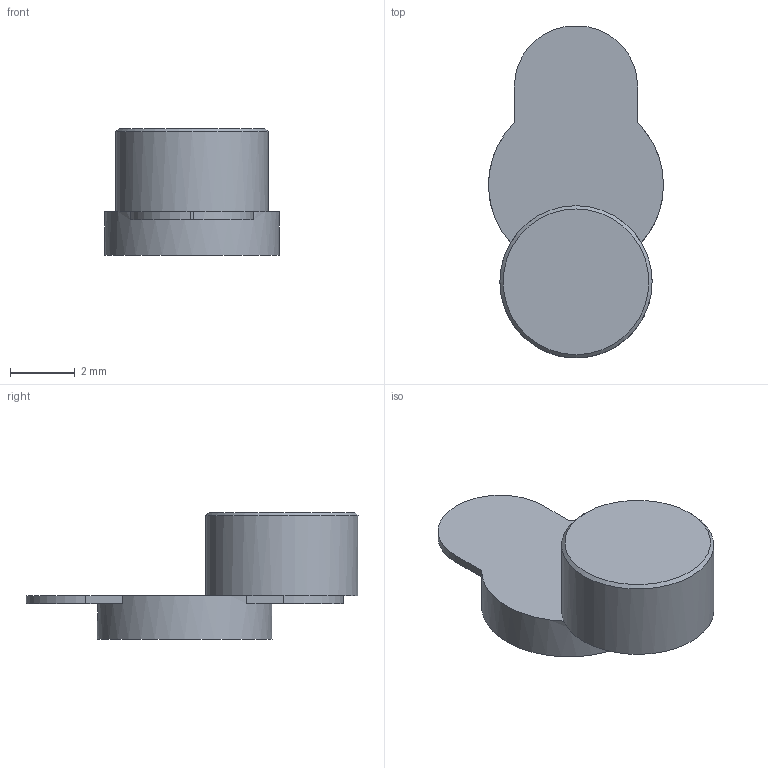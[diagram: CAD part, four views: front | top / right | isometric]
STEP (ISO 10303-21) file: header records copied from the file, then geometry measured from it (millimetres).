
FILE_DESCRIPTION(/* description */ (''),/* implementation_level */ '2;1');
FILE_NAME(/* name */ 'C28_R1_04_Circular_Status_Lens_Original_Collector.step',/* time_stamp */ '2026-09-10T13:08:41-07:00',/* author */ (''),/* organization */ (''),/* preprocessor_version */ 'ST-DEVELOPER v20.1',/* originating_system */ 'Autodesk Translation Framework v15.8.0.0',/* authorisation */ '');
FILE_SCHEMA (('AUTOMOTIVE_DESIGN { 1 0 10303 214 3 1 1 }'));
Length unit declared in the file: millimetre
Products named in the file (1): 2026-09-10-13-08-41-929
Bounding box: 5.4 x 10.25 x 3.92 mm (x, y, z)
Volume: 79.3 mm3; surface area: 146.5 mm2
Topology: 1 solids, 1 shells, 19 faces, 50 edges, 33 vertices
Faces by surface type: plane 12, cylinder 6, cone 1
Full cylindrical faces by diameter (mm): 4.7 x1, 5.4 x1
Entity records: 630 total; most frequent: DIRECTION 111, CARTESIAN_POINT 103, ORIENTED_EDGE 100, EDGE_CURVE 50, AXIS2_PLACEMENT_3D 41, VERTEX_POINT 33, LINE 29, VECTOR 29
